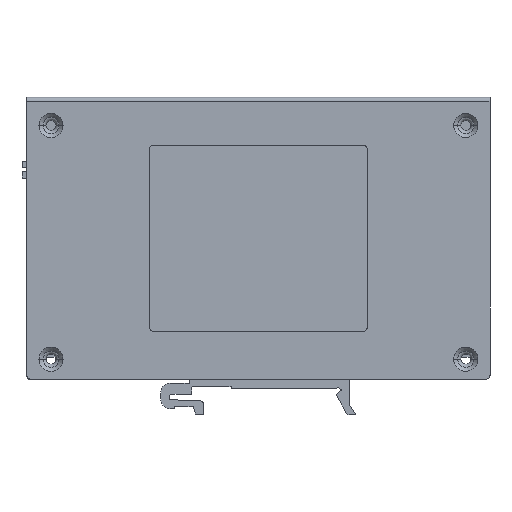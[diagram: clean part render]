
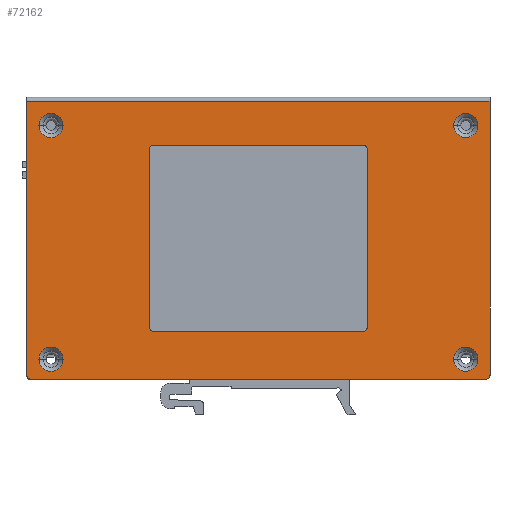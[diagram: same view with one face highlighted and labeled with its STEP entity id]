
A CAD part, left-side view. The second image highlights one B-rep face of the part: STEP entity #72162.
In plain terms, the highlighted planar face has unit normal (-1, 0, 0).
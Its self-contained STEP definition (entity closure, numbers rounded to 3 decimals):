
#70081=DIRECTION('',(0.,-1.,0.));
#70082=VECTOR('',#70081,113.);
#70083=CARTESIAN_POINT('',(-49.15,56.,-34.9));
#70084=LINE('',#70083,#70082);
#70085=CARTESIAN_POINT('',(-49.15,56.,-33.9));
#70086=DIRECTION('',(-1.,0.,0.));
#70087=DIRECTION('',(0.,1.,0.));
#70088=AXIS2_PLACEMENT_3D('',#70085,#70086,#70087);
#70090=DIRECTION('',(0.,0.,-1.));
#70091=VECTOR('',#70090,68.);
#70092=CARTESIAN_POINT('',(-49.15,57.,34.1));
#70093=LINE('',#70092,#70091);
#70094=DIRECTION('',(0.,0.,1.));
#70095=VECTOR('',#70094,68.);
#70096=CARTESIAN_POINT('',(-49.15,-58.,-33.9));
#70097=LINE('',#70096,#70095);
#70098=CARTESIAN_POINT('',(-49.15,-57.,-33.9));
#70099=DIRECTION('',(-1.,0.,0.));
#70100=DIRECTION('',(0.,0.,-1.));
#70101=AXIS2_PLACEMENT_3D('',#70098,#70099,#70100);
#70103=CARTESIAN_POINT('',(-49.15,51.,-29.9));
#70104=DIRECTION('',(1.,0.,0.));
#70105=DIRECTION('',(0.,1.,0.));
#70106=AXIS2_PLACEMENT_3D('',#70103,#70104,#70105);
#70108=CARTESIAN_POINT('',(-49.15,51.,-29.9));
#70109=DIRECTION('',(1.,0.,0.));
#70110=DIRECTION('',(0.,-1.,0.));
#70111=AXIS2_PLACEMENT_3D('',#70108,#70109,#70110);
#70113=CARTESIAN_POINT('',(-49.15,51.,28.1));
#70114=DIRECTION('',(1.,0.,0.));
#70115=DIRECTION('',(0.,1.,0.));
#70116=AXIS2_PLACEMENT_3D('',#70113,#70114,#70115);
#70118=CARTESIAN_POINT('',(-49.15,51.,28.1));
#70119=DIRECTION('',(1.,0.,0.));
#70120=DIRECTION('',(0.,-1.,0.));
#70121=AXIS2_PLACEMENT_3D('',#70118,#70119,#70120);
#70123=CARTESIAN_POINT('',(-49.15,-52.,-29.9));
#70124=DIRECTION('',(1.,0.,0.));
#70125=DIRECTION('',(0.,1.,0.));
#70126=AXIS2_PLACEMENT_3D('',#70123,#70124,#70125);
#70128=CARTESIAN_POINT('',(-49.15,-52.,-29.9));
#70129=DIRECTION('',(1.,0.,0.));
#70130=DIRECTION('',(0.,-1.,0.));
#70131=AXIS2_PLACEMENT_3D('',#70128,#70129,#70130);
#70133=CARTESIAN_POINT('',(-49.15,-52.,28.1));
#70134=DIRECTION('',(1.,0.,0.));
#70135=DIRECTION('',(0.,1.,0.));
#70136=AXIS2_PLACEMENT_3D('',#70133,#70134,#70135);
#70138=CARTESIAN_POINT('',(-49.15,-52.,28.1));
#70139=DIRECTION('',(1.,0.,0.));
#70140=DIRECTION('',(0.,-1.,0.));
#70141=AXIS2_PLACEMENT_3D('',#70138,#70139,#70140);
#70143=CARTESIAN_POINT('',(-49.15,-26.4,22.));
#70144=DIRECTION('',(1.,0.,0.));
#70145=DIRECTION('',(0.,0.,1.));
#70146=AXIS2_PLACEMENT_3D('',#70143,#70144,#70145);
#70148=DIRECTION('',(0.,-1.,0.));
#70149=VECTOR('',#70148,51.8);
#70150=CARTESIAN_POINT('',(-49.15,25.4,23.2));
#70151=LINE('',#70150,#70149);
#70152=CARTESIAN_POINT('',(-49.15,25.4,22.));
#70153=DIRECTION('',(1.,0.,0.));
#70154=DIRECTION('',(0.,1.,0.));
#70155=AXIS2_PLACEMENT_3D('',#70152,#70153,#70154);
#70157=DIRECTION('',(0.,0.,1.));
#70158=VECTOR('',#70157,43.8);
#70159=CARTESIAN_POINT('',(-49.15,26.6,-21.8));
#70160=LINE('',#70159,#70158);
#70161=CARTESIAN_POINT('',(-49.15,25.4,-21.8));
#70162=DIRECTION('',(1.,0.,0.));
#70163=DIRECTION('',(0.,0.,-1.));
#70164=AXIS2_PLACEMENT_3D('',#70161,#70162,#70163);
#70166=DIRECTION('',(0.,1.,0.));
#70167=VECTOR('',#70166,51.8);
#70168=CARTESIAN_POINT('',(-49.15,-26.4,-23.));
#70169=LINE('',#70168,#70167);
#70170=CARTESIAN_POINT('',(-49.15,-26.4,-21.8));
#70171=DIRECTION('',(1.,0.,0.));
#70172=DIRECTION('',(0.,-1.,0.));
#70173=AXIS2_PLACEMENT_3D('',#70170,#70171,#70172);
#70175=DIRECTION('',(0.,0.,-1.));
#70176=VECTOR('',#70175,43.8);
#70177=CARTESIAN_POINT('',(-49.15,-27.6,22.));
#70178=LINE('',#70177,#70176);
#70195=DIRECTION('',(0.,-1.,0.));
#70196=VECTOR('',#70195,115.);
#70197=CARTESIAN_POINT('',(-49.15,57.,34.1));
#70198=LINE('',#70197,#70196);
#71167=CARTESIAN_POINT('',(-49.15,-58.,34.1));
#71168=VERTEX_POINT('',#71167);
#71177=CARTESIAN_POINT('',(-49.15,56.,-34.9));
#71178=CARTESIAN_POINT('',(-49.15,-57.,-34.9));
#71179=VERTEX_POINT('',#71177);
#71180=VERTEX_POINT('',#71178);
#71181=CARTESIAN_POINT('',(-49.15,57.,34.1));
#71182=VERTEX_POINT('',#71181);
#71193=CARTESIAN_POINT('',(-49.15,54.,-29.9));
#71194=CARTESIAN_POINT('',(-49.15,48.,-29.9));
#71195=VERTEX_POINT('',#71193);
#71196=VERTEX_POINT('',#71194);
#71197=CARTESIAN_POINT('',(-49.15,-58.,-33.9));
#71198=VERTEX_POINT('',#71197);
#71199=CARTESIAN_POINT('',(-49.15,57.,-33.9));
#71200=VERTEX_POINT('',#71199);
#71217=CARTESIAN_POINT('',(-49.15,54.,28.1));
#71218=CARTESIAN_POINT('',(-49.15,48.,28.1));
#71219=VERTEX_POINT('',#71217);
#71220=VERTEX_POINT('',#71218);
#71239=CARTESIAN_POINT('',(-49.15,-49.,-29.9));
#71240=CARTESIAN_POINT('',(-49.15,-55.,-29.9));
#71241=VERTEX_POINT('',#71239);
#71242=VERTEX_POINT('',#71240);
#71255=CARTESIAN_POINT('',(-49.15,-49.,28.1));
#71256=CARTESIAN_POINT('',(-49.15,-55.,28.1));
#71257=VERTEX_POINT('',#71255);
#71258=VERTEX_POINT('',#71256);
#71277=CARTESIAN_POINT('',(-49.15,-26.4,23.2));
#71278=CARTESIAN_POINT('',(-49.15,-27.6,22.));
#71279=VERTEX_POINT('',#71277);
#71280=VERTEX_POINT('',#71278);
#71299=CARTESIAN_POINT('',(-49.15,-27.6,-21.8));
#71300=VERTEX_POINT('',#71299);
#71301=CARTESIAN_POINT('',(-49.15,25.4,23.2));
#71302=VERTEX_POINT('',#71301);
#71327=CARTESIAN_POINT('',(-49.15,-26.4,-23.));
#71328=VERTEX_POINT('',#71327);
#71329=CARTESIAN_POINT('',(-49.15,26.6,22.));
#71330=VERTEX_POINT('',#71329);
#71355=CARTESIAN_POINT('',(-49.15,25.4,-23.));
#71356=VERTEX_POINT('',#71355);
#71359=CARTESIAN_POINT('',(-49.15,26.6,-21.8));
#71360=VERTEX_POINT('',#71359);
#72103=CARTESIAN_POINT('',(-49.15,-58.,34.1));
#72104=DIRECTION('',(1.,0.,0.));
#72105=DIRECTION('',(0.,-1.,0.));
#72106=AXIS2_PLACEMENT_3D('',#72103,#72104,#72105);
#72107=PLANE('',#72106);
#72109=ORIENTED_EDGE('',*,*,#72108,.F.);
#72111=ORIENTED_EDGE('',*,*,#72110,.F.);
#72112=ORIENTED_EDGE('',*,*,#72094,.F.);
#72114=ORIENTED_EDGE('',*,*,#72113,.T.);
#72115=ORIENTED_EDGE('',*,*,#71670,.F.);
#72117=ORIENTED_EDGE('',*,*,#72116,.F.);
#72118=EDGE_LOOP('',(#72109,#72111,#72112,#72114,#72115,#72117));
#72119=FACE_OUTER_BOUND('',#72118,.F.);
#72121=ORIENTED_EDGE('',*,*,#72120,.F.);
#72123=ORIENTED_EDGE('',*,*,#72122,.F.);
#72124=EDGE_LOOP('',(#72121,#72123));
#72125=FACE_BOUND('',#72124,.F.);
#72127=ORIENTED_EDGE('',*,*,#72126,.F.);
#72129=ORIENTED_EDGE('',*,*,#72128,.F.);
#72130=EDGE_LOOP('',(#72127,#72129));
#72131=FACE_BOUND('',#72130,.F.);
#72133=ORIENTED_EDGE('',*,*,#72132,.F.);
#72135=ORIENTED_EDGE('',*,*,#72134,.F.);
#72136=EDGE_LOOP('',(#72133,#72135));
#72137=FACE_BOUND('',#72136,.F.);
#72139=ORIENTED_EDGE('',*,*,#72138,.F.);
#72141=ORIENTED_EDGE('',*,*,#72140,.F.);
#72142=EDGE_LOOP('',(#72139,#72141));
#72143=FACE_BOUND('',#72142,.F.);
#72145=ORIENTED_EDGE('',*,*,#72144,.F.);
#72147=ORIENTED_EDGE('',*,*,#72146,.F.);
#72149=ORIENTED_EDGE('',*,*,#72148,.F.);
#72151=ORIENTED_EDGE('',*,*,#72150,.F.);
#72153=ORIENTED_EDGE('',*,*,#72152,.F.);
#72155=ORIENTED_EDGE('',*,*,#72154,.F.);
#72157=ORIENTED_EDGE('',*,*,#72156,.F.);
#72159=ORIENTED_EDGE('',*,*,#72158,.F.);
#72160=EDGE_LOOP('',(#72145,#72147,#72149,#72151,#72153,#72155,#72157,#72159));
#72161=FACE_BOUND('',#72160,.F.);
#72162=ADVANCED_FACE('',(#72119,#72125,#72131,#72137,#72143,#72161),#72107,.F.);
#70089=CIRCLE('',#70088,1.);
#70102=CIRCLE('',#70101,1.);
#70107=CIRCLE('',#70106,3.);
#70112=CIRCLE('',#70111,3.);
#70117=CIRCLE('',#70116,3.);
#70122=CIRCLE('',#70121,3.);
#70127=CIRCLE('',#70126,3.);
#70132=CIRCLE('',#70131,3.);
#70137=CIRCLE('',#70136,3.);
#70142=CIRCLE('',#70141,3.);
#70147=CIRCLE('',#70146,1.2);
#70156=CIRCLE('',#70155,1.2);
#70165=CIRCLE('',#70164,1.2);
#70174=CIRCLE('',#70173,1.2);
#71670=EDGE_CURVE('',#71198,#71168,#70097,.T.);
#72094=EDGE_CURVE('',#71182,#71200,#70093,.T.);
#72108=EDGE_CURVE('',#71179,#71180,#70084,.T.);
#72110=EDGE_CURVE('',#71200,#71179,#70089,.T.);
#72113=EDGE_CURVE('',#71182,#71168,#70198,.T.);
#72116=EDGE_CURVE('',#71180,#71198,#70102,.T.);
#72120=EDGE_CURVE('',#71195,#71196,#70107,.T.);
#72122=EDGE_CURVE('',#71196,#71195,#70112,.T.);
#72126=EDGE_CURVE('',#71219,#71220,#70117,.T.);
#72128=EDGE_CURVE('',#71220,#71219,#70122,.T.);
#72132=EDGE_CURVE('',#71241,#71242,#70127,.T.);
#72134=EDGE_CURVE('',#71242,#71241,#70132,.T.);
#72138=EDGE_CURVE('',#71257,#71258,#70137,.T.);
#72140=EDGE_CURVE('',#71258,#71257,#70142,.T.);
#72144=EDGE_CURVE('',#71279,#71280,#70147,.T.);
#72146=EDGE_CURVE('',#71302,#71279,#70151,.T.);
#72148=EDGE_CURVE('',#71330,#71302,#70156,.T.);
#72150=EDGE_CURVE('',#71360,#71330,#70160,.T.);
#72152=EDGE_CURVE('',#71356,#71360,#70165,.T.);
#72154=EDGE_CURVE('',#71328,#71356,#70169,.T.);
#72156=EDGE_CURVE('',#71300,#71328,#70174,.T.);
#72158=EDGE_CURVE('',#71280,#71300,#70178,.T.);
